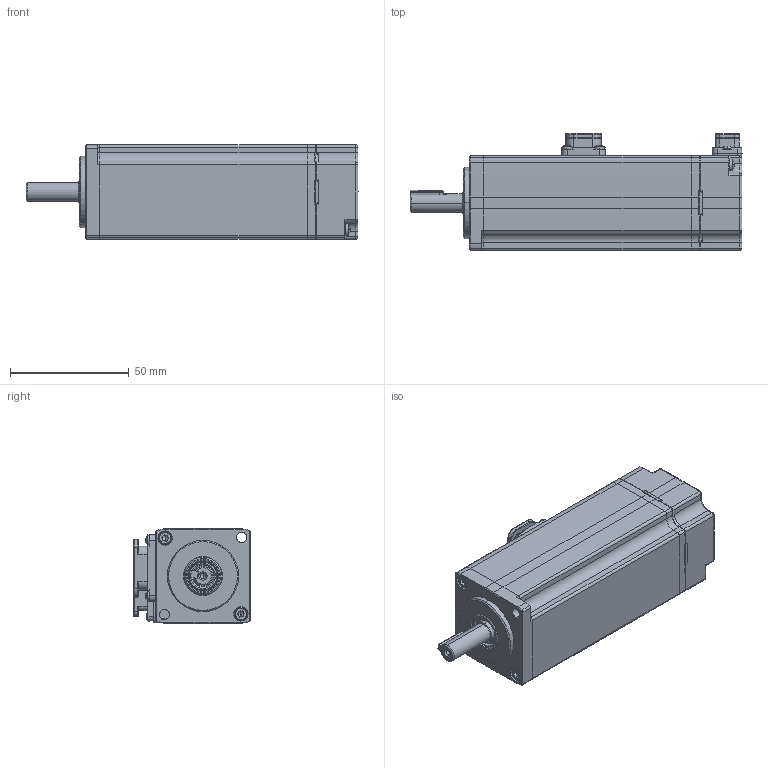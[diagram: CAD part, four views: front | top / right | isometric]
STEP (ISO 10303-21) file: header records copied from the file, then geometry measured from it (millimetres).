
FILE_DESCRIPTION (( 'STEP AP214' ), '1' );
FILE_NAME ('UMM-0001BAB-B5.STEP', '2024-08-20T09:44:41', ( '' ), ( '' ), 'SwSTEP 2.0', 'SolidWorks 2022', '' );
FILE_SCHEMA (( 'AUTOMOTIVE_DESIGN' ));
Length unit declared in the file: millimetre
Products named in the file (1): UMM-0001BAB-B5
Bounding box: 139.9 x 49.3 x 40 mm (x, y, z)
Surface area: 63750.4 mm2 (no closed solid volume)
Topology: 0 solids, 32 shells, 2771 faces, 7145 edges, 4485 vertices
Faces by surface type: plane 1340, cylinder 882, bspline 280, cone 265, torus 4
Entity records: 95922 total; most frequent: CARTESIAN_POINT 29198, ORIENTED_EDGE 14107, DIRECTION 13463, EDGE_CURVE 7054, AXIS2_PLACEMENT_3D 4637, VERTEX_POINT 4483, VECTOR 4189, LINE 4189
